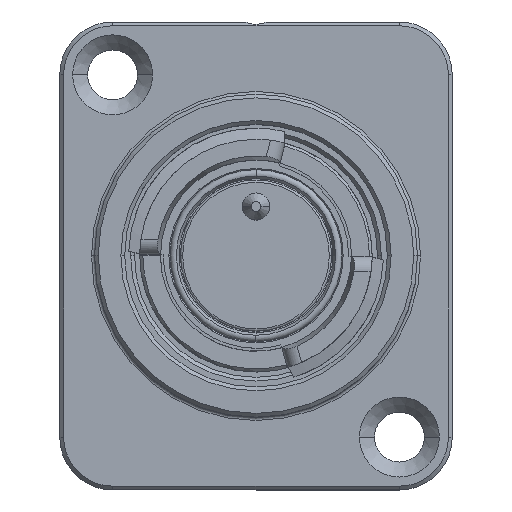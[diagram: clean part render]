
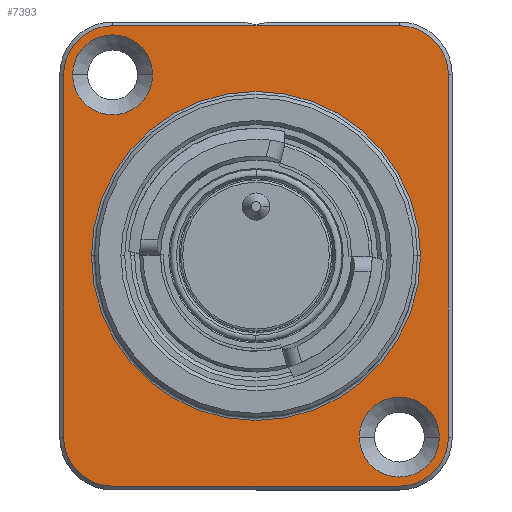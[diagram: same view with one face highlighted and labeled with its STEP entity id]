
A CAD part, top view. The second image highlights one B-rep face of the part: STEP entity #7393.
In plain terms, the highlighted planar face has unit normal (0, 0, 1).
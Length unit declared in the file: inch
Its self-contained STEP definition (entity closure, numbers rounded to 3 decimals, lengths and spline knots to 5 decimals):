
#107 = DIRECTION ( 'NONE',  ( 0., 0., -1. ) ) ;
#139 = CARTESIAN_POINT ( 'NONE',  ( 0.37402, 0.47244, -0.66535 ) ) ;
#299 = DIRECTION ( 'NONE',  ( -1., 0., 0. ) ) ;
#387 = EDGE_LOOP ( 'NONE', ( #9638, #3853 ) ) ;
#484 = ORIENTED_EDGE ( 'NONE', *, *, #2099, .T. ) ;
#577 = CARTESIAN_POINT ( 'NONE',  ( 0.37402, 0.60039, -0.66535 ) ) ;
#587 = DIRECTION ( 'NONE',  ( -1., 0., 0. ) ) ;
#658 = CARTESIAN_POINT ( 'NONE',  ( -0.47835, 0.47244, -0.66535 ) ) ;
#798 = EDGE_CURVE ( 'NONE', #2740, #6340, #8862, .T. ) ;
#835 = CARTESIAN_POINT ( 'NONE',  ( 0.50197, 0.47244, -0.66535 ) ) ;
#858 = DIRECTION ( 'NONE',  ( -1., 0., 0. ) ) ;
#945 = VERTEX_POINT ( 'NONE', #2324 ) ;
#1041 = CARTESIAN_POINT ( 'NONE',  ( -0.50197, -0.47244, -0.66535 ) ) ;
#1064 = EDGE_CURVE ( 'NONE', #2187, #1356, #6143, .T. ) ;
#1095 = EDGE_CURVE ( 'NONE', #5875, #1944, #9021, .T. ) ;
#1149 = CARTESIAN_POINT ( 'NONE',  ( 0., 0., -0.66535 ) ) ;
#1160 = CARTESIAN_POINT ( 'NONE',  ( 0.50197, -0.47244, -0.66535 ) ) ;
#1220 = ORIENTED_EDGE ( 'NONE', *, *, #4633, .T. ) ;
#1268 = ORIENTED_EDGE ( 'NONE', *, *, #8204, .T. ) ;
#1349 = AXIS2_PLACEMENT_3D ( 'NONE', #6306, #107, #2443 ) ;
#1356 = VERTEX_POINT ( 'NONE', #5082 ) ;
#1561 = CIRCLE ( 'NONE', #7105, 0.10433 ) ;
#1580 = DIRECTION ( 'NONE',  ( -1., 0., 0. ) ) ;
#1637 = EDGE_CURVE ( 'NONE', #6742, #5875, #3769, .T. ) ;
#1752 = EDGE_CURVE ( 'NONE', #3926, #4382, #1561, .T. ) ;
#1831 = LINE ( 'NONE', #1041, #2607 ) ;
#1890 = CARTESIAN_POINT ( 'NONE',  ( 0.26969, -0.47244, -0.66535 ) ) ;
#1944 = VERTEX_POINT ( 'NONE', #577 ) ;
#2030 = AXIS2_PLACEMENT_3D ( 'NONE', #139, #8593, #1580 ) ;
#2099 = EDGE_CURVE ( 'NONE', #4382, #3926, #8723, .T. ) ;
#2151 = FACE_OUTER_BOUND ( 'NONE', #2541, .T. ) ;
#2187 = VERTEX_POINT ( 'NONE', #3305 ) ;
#2212 = CIRCLE ( 'NONE', #9050, 0.42913 ) ;
#2324 = CARTESIAN_POINT ( 'NONE',  ( 0.37402, -0.60039, -0.66535 ) ) ;
#2443 = DIRECTION ( 'NONE',  ( -1., 0., 0. ) ) ;
#2541 = EDGE_LOOP ( 'NONE', ( #3422, #7186, #5302, #1268, #1220, #8046, #4385, #4998 ) ) ;
#2607 = VECTOR ( 'NONE', #7041, 39.37008 ) ;
#2740 = VERTEX_POINT ( 'NONE', #5493 ) ;
#2885 = CARTESIAN_POINT ( 'NONE',  ( 0.47835, -0.47244, -0.66535 ) ) ;
#2914 = EDGE_CURVE ( 'NONE', #1944, #2187, #9634, .T. ) ;
#2918 = CIRCLE ( 'NONE', #8156, 0.12795 ) ;
#2920 = DIRECTION ( 'NONE',  ( 0., 0., -1. ) ) ;
#2933 = AXIS2_PLACEMENT_3D ( 'NONE', #6005, #6751, #858 ) ;
#2964 = CARTESIAN_POINT ( 'NONE',  ( 0.37402, -0.47244, -0.66535 ) ) ;
#3172 = CARTESIAN_POINT ( 'NONE',  ( 0., 0., -0.66535 ) ) ;
#3305 = CARTESIAN_POINT ( 'NONE',  ( -0.37402, 0.60039, -0.66535 ) ) ;
#3326 = EDGE_CURVE ( 'NONE', #8915, #5044, #2212, .T. ) ;
#3377 = DIRECTION ( 'NONE',  ( 0., 0., -1. ) ) ;
#3407 = DIRECTION ( 'NONE',  ( 0., 0., -1. ) ) ;
#3422 = ORIENTED_EDGE ( 'NONE', *, *, #2914, .T. ) ;
#3521 = CARTESIAN_POINT ( 'NONE',  ( -0.37402, 0.47244, -0.66535 ) ) ;
#3769 = LINE ( 'NONE', #835, #6784 ) ;
#3845 = EDGE_LOOP ( 'NONE', ( #4510, #7971 ) ) ;
#3853 = ORIENTED_EDGE ( 'NONE', *, *, #3326, .T. ) ;
#3926 = VERTEX_POINT ( 'NONE', #1890 ) ;
#3969 = LINE ( 'NONE', #4814, #9237 ) ;
#3971 = DIRECTION ( 'NONE',  ( -1., 0., 0. ) ) ;
#4181 = DIRECTION ( 'NONE',  ( 0., 0., -1. ) ) ;
#4208 = CARTESIAN_POINT ( 'NONE',  ( -0.42913, 0., -0.66535 ) ) ;
#4370 = CARTESIAN_POINT ( 'NONE',  ( 0.02706, 0.60039, -0.66535 ) ) ;
#4382 = VERTEX_POINT ( 'NONE', #2885 ) ;
#4385 = ORIENTED_EDGE ( 'NONE', *, *, #1637, .T. ) ;
#4506 = AXIS2_PLACEMENT_3D ( 'NONE', #3172, #3377, #3971 ) ;
#4510 = ORIENTED_EDGE ( 'NONE', *, *, #798, .T. ) ;
#4633 = EDGE_CURVE ( 'NONE', #8638, #945, #3969, .T. ) ;
#4727 = AXIS2_PLACEMENT_3D ( 'NONE', #9138, #5341, #8386 ) ;
#4814 = CARTESIAN_POINT ( 'NONE',  ( 0.37402, -0.60039, -0.66535 ) ) ;
#4816 = CARTESIAN_POINT ( 'NONE',  ( -0.37402, -0.47244, -0.66535 ) ) ;
#4998 = ORIENTED_EDGE ( 'NONE', *, *, #1095, .T. ) ;
#5044 = VERTEX_POINT ( 'NONE', #4208 ) ;
#5082 = CARTESIAN_POINT ( 'NONE',  ( -0.50197, 0.47244, -0.66535 ) ) ;
#5154 = AXIS2_PLACEMENT_3D ( 'NONE', #6559, #8206, #8870 ) ;
#5289 = CARTESIAN_POINT ( 'NONE',  ( -0.37402, -0.60039, -0.66535 ) ) ;
#5302 = ORIENTED_EDGE ( 'NONE', *, *, #8297, .T. ) ;
#5337 = AXIS2_PLACEMENT_3D ( 'NONE', #3521, #9457, #7342 ) ;
#5341 = DIRECTION ( 'NONE',  ( 0., 0., 1. ) ) ;
#5357 = FACE_BOUND ( 'NONE', #387, .T. ) ;
#5375 = VERTEX_POINT ( 'NONE', #6461 ) ;
#5455 = FACE_BOUND ( 'NONE', #3845, .T. ) ;
#5493 = CARTESIAN_POINT ( 'NONE',  ( -0.26969, 0.47244, -0.66535 ) ) ;
#5875 = VERTEX_POINT ( 'NONE', #8957 ) ;
#5986 = DIRECTION ( 'NONE',  ( -1., 0., 0. ) ) ;
#6005 = CARTESIAN_POINT ( 'NONE',  ( 0.37402, -0.47244, -0.66535 ) ) ;
#6143 = CIRCLE ( 'NONE', #4727, 0.12795 ) ;
#6166 = VECTOR ( 'NONE', #587, 39.37008 ) ;
#6245 = DIRECTION ( 'NONE',  ( -1., 0., 0. ) ) ;
#6306 = CARTESIAN_POINT ( 'NONE',  ( 0., 0.825, -0.66535 ) ) ;
#6325 = CARTESIAN_POINT ( 'NONE',  ( 0.37402, -0.47244, -0.66535 ) ) ;
#6340 = VERTEX_POINT ( 'NONE', #658 ) ;
#6461 = CARTESIAN_POINT ( 'NONE',  ( -0.50197, -0.47244, -0.66535 ) ) ;
#6559 = CARTESIAN_POINT ( 'NONE',  ( -0.37402, 0.47244, -0.66535 ) ) ;
#6726 = CIRCLE ( 'NONE', #2933, 0.12795 ) ;
#6742 = VERTEX_POINT ( 'NONE', #1160 ) ;
#6751 = DIRECTION ( 'NONE',  ( 0., 0., 1. ) ) ;
#6784 = VECTOR ( 'NONE', #8332, 39.37008 ) ;
#6953 = FACE_BOUND ( 'NONE', #8852, .T. ) ;
#7041 = DIRECTION ( 'NONE',  ( 0., -1., 0. ) ) ;
#7086 = DIRECTION ( 'NONE',  ( 0., 0., 1. ) ) ;
#7105 = AXIS2_PLACEMENT_3D ( 'NONE', #2964, #2920, #5986 ) ;
#7186 = ORIENTED_EDGE ( 'NONE', *, *, #1064, .T. ) ;
#7274 = AXIS2_PLACEMENT_3D ( 'NONE', #6325, #3407, #7968 ) ;
#7342 = DIRECTION ( 'NONE',  ( -1., 0., 0. ) ) ;
#7393 = ADVANCED_FACE ( 'NONE', ( #2151, #5357, #6953, #5455 ), #7799, .F. ) ;
#7717 = ORIENTED_EDGE ( 'NONE', *, *, #1752, .T. ) ;
#7799 = PLANE ( 'NONE',  #1349 ) ;
#7836 = DIRECTION ( 'NONE',  ( 1., 0., 0. ) ) ;
#7968 = DIRECTION ( 'NONE',  ( -1., 0., 0. ) ) ;
#7971 = ORIENTED_EDGE ( 'NONE', *, *, #9651, .T. ) ;
#7998 = CIRCLE ( 'NONE', #4506, 0.42913 ) ;
#8046 = ORIENTED_EDGE ( 'NONE', *, *, #9787, .T. ) ;
#8156 = AXIS2_PLACEMENT_3D ( 'NONE', #4816, #7086, #6245 ) ;
#8185 = EDGE_CURVE ( 'NONE', #5044, #8915, #7998, .T. ) ;
#8204 = EDGE_CURVE ( 'NONE', #5375, #8638, #2918, .T. ) ;
#8206 = DIRECTION ( 'NONE',  ( 0., 0., -1. ) ) ;
#8297 = EDGE_CURVE ( 'NONE', #1356, #5375, #1831, .T. ) ;
#8327 = CIRCLE ( 'NONE', #5154, 0.10433 ) ;
#8332 = DIRECTION ( 'NONE',  ( 0., 1., 0. ) ) ;
#8386 = DIRECTION ( 'NONE',  ( -1., 0., 0. ) ) ;
#8593 = DIRECTION ( 'NONE',  ( 0., 0., 1. ) ) ;
#8638 = VERTEX_POINT ( 'NONE', #5289 ) ;
#8723 = CIRCLE ( 'NONE', #7274, 0.10433 ) ;
#8852 = EDGE_LOOP ( 'NONE', ( #484, #7717 ) ) ;
#8862 = CIRCLE ( 'NONE', #5337, 0.10433 ) ;
#8870 = DIRECTION ( 'NONE',  ( -1., 0., 0. ) ) ;
#8882 = CARTESIAN_POINT ( 'NONE',  ( 0.42913, 0., -0.66535 ) ) ;
#8915 = VERTEX_POINT ( 'NONE', #8882 ) ;
#8957 = CARTESIAN_POINT ( 'NONE',  ( 0.50197, 0.47244, -0.66535 ) ) ;
#9021 = CIRCLE ( 'NONE', #2030, 0.12795 ) ;
#9050 = AXIS2_PLACEMENT_3D ( 'NONE', #1149, #4181, #299 ) ;
#9138 = CARTESIAN_POINT ( 'NONE',  ( -0.37402, 0.47244, -0.66535 ) ) ;
#9237 = VECTOR ( 'NONE', #7836, 39.37008 ) ;
#9457 = DIRECTION ( 'NONE',  ( 0., 0., -1. ) ) ;
#9634 = LINE ( 'NONE', #4370, #6166 ) ;
#9638 = ORIENTED_EDGE ( 'NONE', *, *, #8185, .T. ) ;
#9651 = EDGE_CURVE ( 'NONE', #6340, #2740, #8327, .T. ) ;
#9787 = EDGE_CURVE ( 'NONE', #945, #6742, #6726, .T. ) ;
